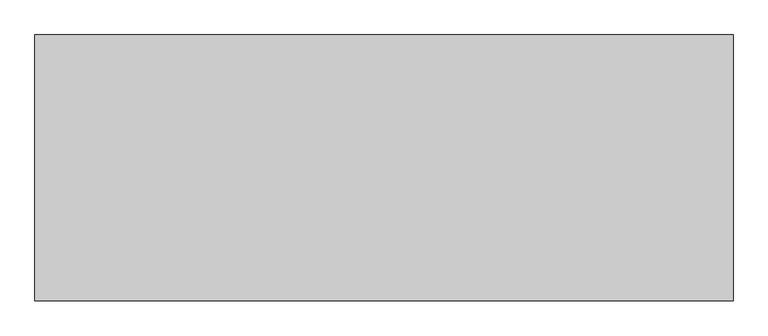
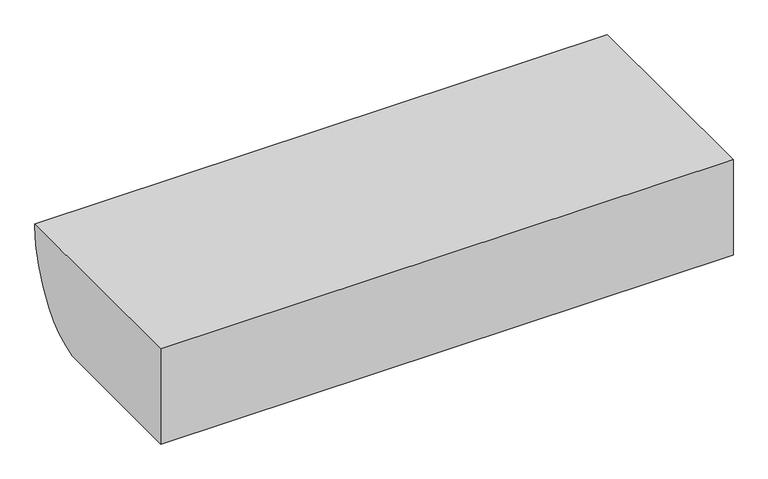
"""IFC4 building model written with IfcOpenShell, lengths in millimetres: proxy geometry, Equipamento - Ar-Condicionado Split : Equipamento - Ar-Condicionado Split."""

from ifc_helpers import new_model, si_unit, point, frame, frame_2d, origin, place, context, project, spatial, polyline, circle_curve, trimmed, segment, composite_curve, outline, extrude, source, transform, mapped, element, save
from ifc_brep_helpers import plane_surface, cylinder_surface, advanced_brep


def generic_models_d3d31f01(model_context):
    return source(origin(), model_context, "Body", "SolidModel", [
        extrude(outline(composite_curve([segment(polyline([(319.4776579, 30.8913784), (328.8264585, 21.5425778)]), True, "CONTINUOUS"), segment(trimmed(circle_curve(frame_2d((118.9662283, 81.9263021)), 218.3747017), [point((328.8264585, 21.5425778))], [point((328.2583568, 19.6020267))], False, "CARTESIAN"), True, "CONTINUOUS"), segment(polyline([(328.2583568, 19.6020267), (316.9690052, 30.8913784), (319.4776579, 30.8913784)]), True, "CONTINUOUS")], self_intersect=False)), frame((-268.2875, 0.0, 0.0), z_axis=(1.0, 0.0, 0.0), x_axis=(0.0, 1.0, 0.0)), (0.0, 0.0, 1.0), 762.0),
        extrude(outline(composite_curve([segment(polyline([(314.5297343, 25.1761461), (322.8581951, 16.8476853)]), True, "CONTINUOUS"), segment(trimmed(circle_curve(frame_2d((115.5203138, 85.3933878)), 218.3747017), [point((322.8581951, 16.8476853))], [point((322.2277844, 14.9694433))], False, "CARTESIAN"), True, "CONTINUOUS"), segment(polyline([(322.2277844, 14.9694433), (312.0210815, 25.1761461), (314.5297343, 25.1761461)]), True, "CONTINUOUS")], self_intersect=False)), frame((-268.2875, 0.0, 0.0), z_axis=(1.0, 0.0, 0.0), x_axis=(0.0, 1.0, 0.0)), (0.0, 0.0, 1.0), 762.0),
        extrude(outline(composite_curve([segment(polyline([(331.4326396, 40.2627085), (341.0546522, 30.6406959)]), True, "CONTINUOUS"), segment(trimmed(circle_curve(frame_2d((130.9879238, 90.3020736)), 218.3747017), [point((341.0546522, 30.6406959))], [point((340.4921538, 28.6945416))], False, "CARTESIAN"), True, "CONTINUOUS"), segment(polyline([(340.4921538, 28.6945416), (328.9239869, 40.2627085), (331.4326396, 40.2627085)]), True, "CONTINUOUS")], self_intersect=False)), frame((-268.2875, 0.0, 0.0), z_axis=(1.0, 0.0, 0.0), x_axis=(0.0, 1.0, 0.0)), (0.0, 0.0, 1.0), 762.0),
        extrude(outline(composite_curve([segment(polyline([(324.6226585, 36.4095337), (335.3830159, 25.6491763)]), True, "CONTINUOUS"), segment(trimmed(circle_curve(frame_2d((128.0347017, 94.1633132)), 218.3747017), [point((335.3830159, 25.6491763))], [point((334.7528429, 23.7706966))], False, "CARTESIAN"), True, "CONTINUOUS"), segment(polyline([(334.7528429, 23.7706966), (322.1140058, 36.4095337), (324.6226585, 36.4095337)]), True, "CONTINUOUS")], self_intersect=False)), frame((-268.2875, 0.0, 0.0), z_axis=(1.0, 0.0, 0.0), x_axis=(0.0, 1.0, 0.0)), (0.0, 0.0, 1.0), 762.0),
        extrude(outline(composite_curve([segment(polyline([(340.0589515, 52.9627085), (351.3337164, 41.6879436)]), True, "CONTINUOUS"), segment(trimmed(circle_curve(frame_2d((141.2359265, 101.2398457)), 218.3747017), [point((351.3337164, 41.6879436))], [point((350.7720685, 39.7409387))], False, "CARTESIAN"), True, "CONTINUOUS"), segment(polyline([(350.7720685, 39.7409387), (337.5502987, 52.9627085), (340.0589515, 52.9627085)]), True, "CONTINUOUS")], self_intersect=False)), frame((-268.2875, 0.0, 0.0), z_axis=(1.0, 0.0, 0.0), x_axis=(0.0, 1.0, 0.0)), (0.0, 0.0, 1.0), 762.0),
        extrude(outline(composite_curve([segment(polyline([(340.3322766, 42.0262275), (346.2283932, 36.1301108)]), True, "CONTINUOUS"), segment(trimmed(circle_curve(frame_2d((138.614959, 103.8366267)), 218.3747017), [point((346.2283932, 36.1301108))], [point((345.6043096, 34.2455417))], False, "CARTESIAN"), True, "CONTINUOUS"), segment(polyline([(345.6043096, 34.2455417), (337.8236238, 42.0262275), (340.3322766, 42.0262275)]), True, "CONTINUOUS")], self_intersect=False)), frame((-268.2875, 0.0, 0.0), z_axis=(1.0, 0.0, 0.0), x_axis=(0.0, 1.0, 0.0)), (0.0, 0.0, 1.0), 762.0),
        extrude(outline(composite_curve([segment(polyline([(348.6852633, 65.6627085), (361.5671748, 52.7807971)]), True, "CONTINUOUS"), segment(trimmed(circle_curve(frame_2d((151.2868523, 111.6849254)), 218.3747017), [point((361.5671748, 52.7807971))], [point((361.010567, 50.8287521))], False, "CARTESIAN"), True, "CONTINUOUS"), segment(polyline([(361.010567, 50.8287521), (346.1766106, 65.6627085), (348.6852633, 65.6627085)]), True, "CONTINUOUS")], self_intersect=False)), frame((-268.2875, 0.0, 0.0), z_axis=(1.0, 0.0, 0.0), x_axis=(0.0, 1.0, 0.0)), (0.0, 0.0, 1.0), 762.0),
        extrude(outline(composite_curve([segment(polyline([(346.4836613, 57.2011546), (357.0801892, 46.6046267)]), True, "CONTINUOUS"), segment(trimmed(circle_curve(frame_2d((149.516092, 114.4622416)), 218.3747017), [point((357.0801892, 46.6046267))], [point((356.4549651, 44.721198))], False, "CARTESIAN"), True, "CONTINUOUS"), segment(polyline([(356.4549651, 44.721198), (343.9750086, 57.2011546), (346.4836613, 57.2011546)]), True, "CONTINUOUS")], self_intersect=False)), frame((-268.2875, 0.0, 0.0), z_axis=(1.0, 0.0, 0.0), x_axis=(0.0, 1.0, 0.0)), (0.0, 0.0, 1.0), 762.0),
        extrude(outline(composite_curve([segment(polyline([(356.3019694, 79.3723143), (369.9750166, 65.699267)]), True, "CONTINUOUS"), segment(trimmed(circle_curve(frame_2d((160.2538546, 126.564237)), 218.3747017), [point((369.9750166, 65.699267))], [point((369.4031905, 63.7624404))], False, "CARTESIAN"), True, "CONTINUOUS"), segment(polyline([(369.4031905, 63.7624404), (353.7933166, 79.3723143), (356.3019694, 79.3723143)]), True, "CONTINUOUS")], self_intersect=False)), frame((-268.2875, 0.0, 0.0), z_axis=(1.0, 0.0, 0.0), x_axis=(0.0, 1.0, 0.0)), (0.0, 0.0, 1.0), 762.0),
        extrude(outline(composite_curve([segment(polyline([(353.9160464, 71.0950813), (365.7647262, 59.2464015)]), True, "CONTINUOUS"), segment(trimmed(circle_curve(frame_2d((158.4830944, 127.9620144)), 218.3747017), [point((365.7647262, 59.2464015))], [point((365.1330365, 57.3694385))], False, "CARTESIAN"), True, "CONTINUOUS"), segment(polyline([(365.1330365, 57.3694385), (351.4073937, 71.0950813), (353.9160464, 71.0950813)]), True, "CONTINUOUS")], self_intersect=False)), frame((-268.2875, 0.0, 0.0), z_axis=(1.0, 0.0, 0.0), x_axis=(0.0, 1.0, 0.0)), (0.0, 0.0, 1.0), 762.0),
        extrude(outline(composite_curve([segment(polyline([(365.1138933, 91.8867022), (378.208367, 78.7922285)]), True, "CONTINUOUS"), segment(trimmed(circle_curve(frame_2d((168.2354721, 138.7830095)), 218.3747017), [point((378.208367, 78.7922285))], [point((377.6433114, 76.8486313))], False, "CARTESIAN"), True, "CONTINUOUS"), segment(polyline([(377.6433114, 76.8486313), (362.6052405, 91.8867022), (365.1138933, 91.8867022)]), True, "CONTINUOUS")], self_intersect=False)), frame((-268.2875, 0.0, 0.0), z_axis=(1.0, 0.0, 0.0), x_axis=(0.0, 1.0, 0.0)), (0.0, 0.0, 1.0), 762.0),
        extrude(outline(composite_curve([segment(polyline([(362.1367394, 84.2007002), (373.9787455, 72.3586941)]), True, "CONTINUOUS"), segment(trimmed(circle_curve(frame_2d((166.8588658, 141.5603257)), 218.3747017), [point((373.9787455, 72.3586941))], [point((373.343401, 70.4853858))], False, "CARTESIAN"), True, "CONTINUOUS"), segment(polyline([(373.343401, 70.4853858), (359.6280866, 84.2007002), (362.1367394, 84.2007002)]), True, "CONTINUOUS")], self_intersect=False)), frame((-268.2875, 0.0, 0.0), z_axis=(1.0, 0.0, 0.0), x_axis=(0.0, 1.0, 0.0)), (0.0, 0.0, 1.0), 762.0),
        extrude(outline(composite_curve([segment(polyline([(373.4079948, 104.9189126), (385.6759417, 92.6509657)]), True, "CONTINUOUS"), segment(trimmed(circle_curve(frame_2d((175.9664705, 153.5562041)), 218.3747017), [point((385.6759417, 92.6509657))], [point((385.1038042, 90.7144504))], False, "CARTESIAN"), True, "CONTINUOUS"), segment(polyline([(385.1038042, 90.7144504), (370.899342, 104.9189126), (373.4079948, 104.9189126)]), True, "CONTINUOUS")], self_intersect=False)), frame((-268.2875, 0.0, 0.0), z_axis=(1.0, 0.0, 0.0), x_axis=(0.0, 1.0, 0.0)), (0.0, 0.0, 1.0), 762.0),
        extrude(outline(composite_curve([segment(polyline([(369.667663, 97.9960885), (382.365033, 85.2987184)]), True, "CONTINUOUS"), segment(trimmed(circle_curve(frame_2d((175.2346373, 154.4688676)), 218.3747017), [point((382.365033, 85.2987184))], [point((381.7299251, 83.4251736))], False, "CARTESIAN"), True, "CONTINUOUS"), segment(polyline([(381.7299251, 83.4251736), (367.1590102, 97.9960885), (369.667663, 97.9960885)]), True, "CONTINUOUS")], self_intersect=False)), frame((-268.2875, 0.0, 0.0), z_axis=(1.0, 0.0, 0.0), x_axis=(0.0, 1.0, 0.0)), (0.0, 0.0, 1.0), 762.0),
        extrude(outline(composite_curve([segment(polyline([(378.8584411, 120.7947781), (391.126388, 108.5268311)]), True, "CONTINUOUS"), segment(trimmed(circle_curve(frame_2d((181.4169169, 169.4320696)), 218.3747017), [point((391.126388, 108.5268311))], [point((390.5542506, 106.5903158))], False, "CARTESIAN"), True, "CONTINUOUS"), segment(polyline([(390.5542506, 106.5903158), (376.3497884, 120.7947781), (378.8584411, 120.7947781)]), True, "CONTINUOUS")], self_intersect=False)), frame((-268.2875, 0.0, 0.0), z_axis=(1.0, 0.0, 0.0), x_axis=(0.0, 1.0, 0.0)), (0.0, 0.0, 1.0), 762.0),
        extrude(outline(composite_curve([segment(polyline([(377.494202, 111.4958613), (388.5925454, 100.3975179)]), True, "CONTINUOUS"), segment(trimmed(circle_curve(frame_2d((181.4169169, 169.4320696)), 218.3747017), [point((388.5925454, 100.3975179))], [point((387.9584567, 98.5229538))], False, "CARTESIAN"), True, "CONTINUOUS"), segment(polyline([(387.9584567, 98.5229538), (374.9855492, 111.4958613), (377.494202, 111.4958613)]), True, "CONTINUOUS")], self_intersect=False)), frame((-268.2875, 0.0, 0.0), z_axis=(1.0, 0.0, 0.0), x_axis=(0.0, 1.0, 0.0)), (0.0, 0.0, 1.0), 762.0),
        extrude(outline(composite_curve([segment(polyline([(385.4668225, 135.5127085), (396.9102146, 124.0693164)]), True, "CONTINUOUS"), segment(trimmed(circle_curve(frame_2d((187.0445745, 184.4342357)), 218.3747017), [point((396.9102146, 124.0693164))], [point((396.3422586, 122.1286196))], False, "CARTESIAN"), True, "CONTINUOUS"), segment(polyline([(396.3422586, 122.1286196), (382.9581698, 135.5127085), (385.4668225, 135.5127085)]), True, "CONTINUOUS")], self_intersect=False)), frame((-268.2875, 0.0, 0.0), z_axis=(1.0, 0.0, 0.0), x_axis=(0.0, 1.0, 0.0)), (0.0, 0.0, 1.0), 762.0),
        extrude(outline(composite_curve([segment(polyline([(385.4668225, 124.8495526), (394.0877442, 116.2286309)]), True, "CONTINUOUS"), segment(trimmed(circle_curve(frame_2d((186.7731519, 184.8447382)), 218.3747017), [point((394.0877442, 116.2286309))], [point((393.4568034, 114.3509189))], False, "CARTESIAN"), True, "CONTINUOUS"), segment(polyline([(393.4568034, 114.3509189), (382.9581698, 124.8495526), (385.4668225, 124.8495526)]), True, "CONTINUOUS")], self_intersect=False)), frame((-268.2875, 0.0, 0.0), z_axis=(1.0, 0.0, 0.0), x_axis=(0.0, 1.0, 0.0)), (0.0, 0.0, 1.0), 762.0),
        advanced_brep(
        [(533.4, 406.4, 184.15), (533.4, 406.4, 187.325), (533.4, 0.0, 187.325), (533.4, 0.0, 0.0), (533.4, 286.1455171, 0.0), (533.4, 360.0518276, 49.6346345), (-533.4, 406.4, 184.15), (-533.4, 360.0518276, 49.6346345), (-533.4, 286.1455171, 0.0), (-533.4, 0.0, 0.0), (-533.4, 0.0, 187.325), (-533.4, 406.4, 187.325), (493.7125, 248.2286294, 0.0), (-493.7125, 248.2286294, 0.0), (-493.7125, 37.8848794, 0.0), (493.7125, 37.8848794, 0.0), (-493.7125, 360.0518276, 49.6346345), (-493.7125, 311.0826973, 9.6447582), (-301.2875, 311.0826973, 9.6447582), (-301.2875, 360.0518276, 49.6346345), (-268.2875, 360.0518276, 49.6346345), (-268.2875, 311.0826973, 9.6447582), (493.7125, 311.0826973, 9.6447582), (493.7125, 360.0518276, 49.6346345), (493.7125, 400.9147631, 135.5127085), (-268.2875, 400.9147631, 135.5127085), (-301.2875, 400.9147631, 135.5127085), (-493.7125, 400.9147631, 135.5127085), (-493.7125, 248.2286294, 135.5127085), (493.7125, 248.2286294, 135.5127085), (493.7125, 37.8848794, 135.5127085), (-493.7125, 37.8848794, 135.5127085), (493.7125, 311.0826973, 135.5127085), (-268.2875, 311.0826973, 135.5127085), (-301.2875, 311.0826973, 14.2172208), (-301.2875, 358.8003077, 53.3642563), (-301.2875, 398.0320677, 135.5127085), (-493.7125, 398.0320677, 135.5127085), (-493.7125, 358.8003077, 53.3642563), (-493.7125, 311.0826973, 14.2172208)],
        [
            (0, 1),
            (1, 2),
            (2, 3),
            (3, 4),
            (4, 5, circle_curve(frame((533.4, 247.1326083, 137.9313066), z_axis=(1.0, 0.0, 0.0), x_axis=(0.0, 0.0, 1.0)), 143.3424305)),
            (5, 0, circle_curve(frame((533.4, 188.0252983, 184.15), z_axis=(1.0, 0.0, 0.0), x_axis=(0.0, 0.0, 1.0)), 218.3747017)),
            (6, 7, circle_curve(frame((-533.4, 188.0252983, 184.15), z_axis=(-1.0, 0.0, 0.0), x_axis=(0.0, 0.0, 1.0)), 218.3747017)),
            (7, 8, circle_curve(frame((-533.4, 247.1326083, 137.9313066), z_axis=(-1.0, 0.0, 0.0), x_axis=(0.0, 0.0, 1.0)), 143.3424305)),
            (8, 9),
            (9, 10),
            (10, 11),
            (11, 6),
            (0, 6),
            (11, 1),
            (10, 2),
            (9, 3),
            (8, 4),
            (12, 13),
            (13, 14),
            (14, 15),
            (15, 12),
            (7, 16),
            (16, 17, circle_curve(frame((-493.7125, 247.1326083, 137.9313066), z_axis=(-1.0, 0.0, 0.0), x_axis=(0.0, 0.0, 1.0)), 143.3424305)),
            (17, 18),
            (18, 19, circle_curve(frame((-301.2875, 247.1326083, 137.9313066), z_axis=(1.0, 0.0, 0.0), x_axis=(0.0, 0.0, 1.0)), 143.3424305)),
            (19, 20),
            (20, 21, circle_curve(frame((-268.2875, 247.1326083, 137.9313066), z_axis=(-1.0, 0.0, 0.0), x_axis=(0.0, 0.0, 1.0)), 143.3424305)),
            (21, 22),
            (22, 23, circle_curve(frame((493.7125, 247.1326083, 137.9313066), z_axis=(1.0, 0.0, 0.0), x_axis=(0.0, 0.0, 1.0)), 143.3424305)),
            (23, 5),
            (23, 24, circle_curve(frame((493.7125, 188.0252983, 184.15), z_axis=(1.0, 0.0, 0.0), x_axis=(0.0, 0.0, 1.0)), 218.3747017)),
            (24, 25),
            (25, 20, circle_curve(frame((-268.2875, 188.0252983, 184.15), z_axis=(-1.0, 0.0, 0.0), x_axis=(0.0, 0.0, 1.0)), 218.3747017)),
            (19, 26, circle_curve(frame((-301.2875, 188.0252983, 184.15), z_axis=(1.0, 0.0, 0.0), x_axis=(0.0, 0.0, 1.0)), 218.3747017)),
            (26, 27),
            (27, 16, circle_curve(frame((-493.7125, 188.0252983, 184.15), z_axis=(-1.0, 0.0, 0.0), x_axis=(0.0, 0.0, 1.0)), 218.3747017)),
            (28, 29),
            (29, 30),
            (30, 31),
            (31, 28),
            (28, 13),
            (12, 29),
            (15, 30),
            (14, 31),
            (22, 32),
            (32, 24),
            (25, 33),
            (33, 21),
            (32, 33),
            (34, 35, circle_curve(frame((-301.2875, 247.4566054, 140.42896), z_axis=(1.0, 0.0, 0.0), x_axis=(0.0, 0.0, 1.0)), 141.3424305)),
            (35, 36, circle_curve(frame((-301.2875, 193.0758464, 182.9517482), z_axis=(1.0, 0.0, 0.0), x_axis=(0.0, 0.0, 1.0)), 210.3747017)),
            (36, 26),
            (18, 34),
            (37, 38, circle_curve(frame((-493.7125, 193.0758464, 182.9517482), z_axis=(-1.0, 0.0, 0.0), x_axis=(0.0, 0.0, 1.0)), 210.3747017)),
            (38, 39, circle_curve(frame((-493.7125, 247.4566054, 140.42896), z_axis=(-1.0, 0.0, 0.0), x_axis=(0.0, 0.0, 1.0)), 141.3424305)),
            (39, 17),
            (27, 37),
            (36, 37),
            (39, 34),
            (35, 38),
        ],
        [
            plane_surface(frame((533.4, 406.4, 187.325), z_axis=(1.0, 0.0, 0.0), x_axis=(0.0, 0.0, 1.0))),
            plane_surface(frame((-533.4, 406.4, 187.325), z_axis=(-1.0, 0.0, 0.0), x_axis=(0.0, 0.0, -1.0))),
            plane_surface(frame((533.4, 406.4, 184.15), z_axis=(0.0, 1.0, 0.0), x_axis=(-1.0, 0.0, 0.0))),
            plane_surface(frame((533.4, 406.4, 187.325), z_axis=(0.0, 0.0, 1.0), x_axis=(-1.0, 0.0, 0.0))),
            plane_surface(frame((533.4, 0.0, 187.325), z_axis=(0.0, -1.0, 0.0), x_axis=(-1.0, 0.0, 0.0))),
            plane_surface(frame((533.4, 0.0, 0.0), z_axis=(0.0, 0.0, -1.0), x_axis=(-1.0, 0.0, 0.0))),
            cylinder_surface(frame((-533.4, 247.1326083, 137.9313066), z_axis=(1.0, 0.0, 0.0), x_axis=(0.0, 0.0, 1.0)), 143.3424305),
            cylinder_surface(frame((-533.4, 188.0252983, 184.15), z_axis=(1.0, 0.0, 0.0), x_axis=(0.0, 0.0, 1.0)), 218.3747017),
            plane_surface(frame((-493.7125, 190.2848794, 135.5127085), z_axis=(0.0, 0.0, -1.0), x_axis=(0.0, -1.0, 0.0))),
            plane_surface(frame((493.7125, 248.2286294, 135.5127085), z_axis=(0.0, -1.0, 0.0), x_axis=(0.0, 0.0, -1.0))),
            plane_surface(frame((493.7125, 37.8848794, 135.5127085), z_axis=(-1.0, 0.0, 0.0), x_axis=(0.0, 0.0, -1.0))),
            plane_surface(frame((-493.7125, 37.8848794, 135.5127085), z_axis=(0.0, 1.0, 0.0), x_axis=(0.0, 0.0, -1.0))),
            plane_surface(frame((-493.7125, 248.2286294, 135.5127085), z_axis=(1.0, 0.0, 0.0), x_axis=(0.0, 0.0, -1.0))),
            plane_surface(frame((493.7125, 412.6826973, 135.5127085), z_axis=(-1.0, 0.0, 0.0), x_axis=(0.0, -1.0, 0.0))),
            plane_surface(frame((-268.2875, 412.6826973, 135.5127085), z_axis=(1.0, 0.0, 0.0), x_axis=(0.0, 1.0, 0.0))),
            plane_surface(frame((493.7125, 406.2355233, 135.5127085), z_axis=(0.0, 0.0, -1.0), x_axis=(-1.0, 0.0, 0.0))),
            plane_surface(frame((493.7125, 311.0826973, 135.5127085), z_axis=(0.0, 1.0, 0.0), x_axis=(-1.0, 0.0, 0.0))),
            plane_surface(frame((-301.2875, 412.6826973, 135.5127085), z_axis=(-1.0, 0.0, 0.0), x_axis=(0.0, -1.0, 0.0))),
            plane_surface(frame((-493.7125, 412.6826973, 135.5127085), z_axis=(1.0, 0.0, 0.0), x_axis=(0.0, 1.0, 0.0))),
            plane_surface(frame((-301.2875, 406.2355233, 135.5127085), z_axis=(0.0, 0.0, -1.0), x_axis=(-1.0, 0.0, 0.0))),
            plane_surface(frame((-301.2875, 311.0826973, 14.2172208), z_axis=(0.0, 1.0, 0.0), x_axis=(-1.0, 0.0, 0.0))),
            cylinder_surface(frame((-493.7125, 193.0758464, 182.9517482), z_axis=(-1.0, 0.0, 0.0), x_axis=(0.0, 0.0, 1.0)), 210.3747017),
            cylinder_surface(frame((-493.7125, 247.4566054, 140.42896), z_axis=(-1.0, 0.0, 0.0), x_axis=(0.0, 0.0, 1.0)), 141.3424305),
        ],
        [
            (0, [[1, 2, 3, 4, 5, 6]]),
            (1, [[7, 8, 9, 10, 11, 12]]),
            (2, [[-1, 13, -12, 14]]),
            (3, [[-2, -14, -11, 15]]),
            (4, [[-3, -15, -10, 16]]),
            (5, [[-4, -16, -9, 17], [18, 19, 20, 21]]),
            (6, [[-5, -17, -8, 22, 23, 24, 25, 26, 27, 28, 29, 30]]),
            (7, [[-6, -30, 31, 32, 33, -26, 34, 35, 36, -22, -7, -13]]),
            (8, [[37, 38, 39, 40]]),
            (9, [[-37, 41, -18, 42]]),
            (10, [[-38, -42, -21, 43]]),
            (11, [[-39, -43, -20, 44]]),
            (12, [[-40, -44, -19, -41]]),
            (13, [[45, 46, -31, -29]]),
            (14, [[47, 48, -27, -33]]),
            (15, [[49, -47, -32, -46]]),
            (16, [[-49, -45, -28, -48]]),
            (17, [[50, 51, 52, -34, -25, 53]]),
            (18, [[54, 55, 56, -23, -36, 57]]),
            (19, [[58, -57, -35, -52]]),
            (20, [[59, -53, -24, -56]]),
            (21, [[-51, 60, -54, -58]]),
            (22, [[-50, -59, -55, -60]]),
        ],
    ),
        extrude(outline(polyline([(248.2286294, 7.2225343), (228.3848794, 0.0), (228.3848794, 3.1915055), (248.2286294, 10.4140398), (248.2286294, 7.2225343)])), frame((-493.7125, 0.0, 0.0), z_axis=(1.0, 0.0, 0.0), x_axis=(0.0, 1.0, 0.0)), (0.0, 0.0, 1.0), 987.425),
        extrude(outline(polyline([(233.2030719, 8.6873116), (209.3348794, 0.0), (209.3348794, 3.1915055), (233.2030719, 11.8788171), (233.2030719, 8.6873116)])), frame((-493.7125, 0.0, 0.0), z_axis=(1.0, 0.0, 0.0), x_axis=(0.0, 1.0, 0.0)), (0.0, 0.0, 1.0), 987.425),
        extrude(outline(polyline([(214.1530719, 8.6873116), (190.2848794, 0.0), (190.2848794, 3.1915055), (214.1530719, 11.8788171), (214.1530719, 8.6873116)])), frame((-493.7125, 0.0, 0.0), z_axis=(1.0, 0.0, 0.0), x_axis=(0.0, 1.0, 0.0)), (0.0, 0.0, 1.0), 987.425),
        extrude(outline(polyline([(195.1030719, 8.6873116), (171.2348794, 0.0), (171.2348794, 3.1915055), (195.1030719, 11.8788171), (195.1030719, 8.6873116)])), frame((-493.7125, 0.0, 0.0), z_axis=(1.0, 0.0, 0.0), x_axis=(0.0, 1.0, 0.0)), (0.0, 0.0, 1.0), 987.425),
        extrude(outline(polyline([(176.0530719, 8.6873116), (152.1848794, 0.0), (152.1848794, 3.1915055), (176.0530719, 11.8788171), (176.0530719, 8.6873116)])), frame((-493.7125, 0.0, 0.0), z_axis=(1.0, 0.0, 0.0), x_axis=(0.0, 1.0, 0.0)), (0.0, 0.0, 1.0), 987.425),
        extrude(outline(polyline([(157.0030719, 8.6873116), (133.1348794, 0.0), (133.1348794, 3.1915055), (157.0030719, 11.8788171), (157.0030719, 8.6873116)])), frame((-493.7125, 0.0, 0.0), z_axis=(1.0, 0.0, 0.0), x_axis=(0.0, 1.0, 0.0)), (0.0, 0.0, 1.0), 987.425),
        extrude(outline(polyline([(137.9530719, 8.6873116), (114.0848794, 0.0), (114.0848794, 3.1915055), (137.9530719, 11.8788171), (137.9530719, 8.6873116)])), frame((-493.7125, 0.0, 0.0), z_axis=(1.0, 0.0, 0.0), x_axis=(0.0, 1.0, 0.0)), (0.0, 0.0, 1.0), 987.425),
        extrude(outline(polyline([(118.9030719, 8.6873116), (95.0348794, 0.0), (95.0348794, 3.1915055), (118.9030719, 11.8788171), (118.9030719, 8.6873116)])), frame((-493.7125, 0.0, 0.0), z_axis=(1.0, 0.0, 0.0), x_axis=(0.0, 1.0, 0.0)), (0.0, 0.0, 1.0), 987.425),
        extrude(outline(polyline([(99.8530719, 8.6873116), (75.9848794, 0.0), (75.9848794, 3.1915055), (99.8530719, 11.8788171), (99.8530719, 8.6873116)])), frame((-493.7125, 0.0, 0.0), z_axis=(1.0, 0.0, 0.0), x_axis=(0.0, 1.0, 0.0)), (0.0, 0.0, 1.0), 987.425),
        extrude(outline(polyline([(80.8030719, 8.6873116), (56.9348794, 0.0), (56.9348794, 3.1915055), (80.8030719, 11.8788171), (80.8030719, 8.6873116)])), frame((-493.7125, 0.0, 0.0), z_axis=(1.0, 0.0, 0.0), x_axis=(0.0, 1.0, 0.0)), (0.0, 0.0, 1.0), 987.425),
        extrude(outline(polyline([(61.7530719, 8.6873116), (37.8848794, 0.0), (37.8848794, 3.1915055), (61.7530719, 11.8788171), (61.7530719, 8.6873116)])), frame((-493.7125, 0.0, 0.0), z_axis=(1.0, 0.0, 0.0), x_axis=(0.0, 1.0, 0.0)), (0.0, 0.0, 1.0), 987.425),
    ])


if __name__ == "__main__":
    model = new_model("IFC4")
    model_context = context("Model", 3, world=origin())
    ifc_project = project(units=[si_unit("LENGTHUNIT", "METRE", prefix="MILLI")], contexts=[model_context])
    site = spatial("IfcSite", under=ifc_project)
    building = spatial("IfcBuilding", under=site)
    placement = place(None, origin())
    generic_models_shape = generic_models_d3d31f01(model_context)
    element("IfcBuildingElementProxy", 1, Name="Equipamento - Ar-Condicionado Split : Equipamento - Ar-Condicionado Split", ObjectType="Equipamento - Ar-Condicionado Split : Equipamento - Ar-Condicionado Split", at=placement, inside=building, context=model_context, shape_type="MappedRepresentation", body=[
        mapped(generic_models_shape, transform((0.0, 0.0, 0.0), x_axis=(1.0, 0.0, 0.0), y_axis=(0.0, 1.0, 0.0), z_axis=(0.0, 0.0, 1.0))),
    ])
    save(model, "model.ifc")
